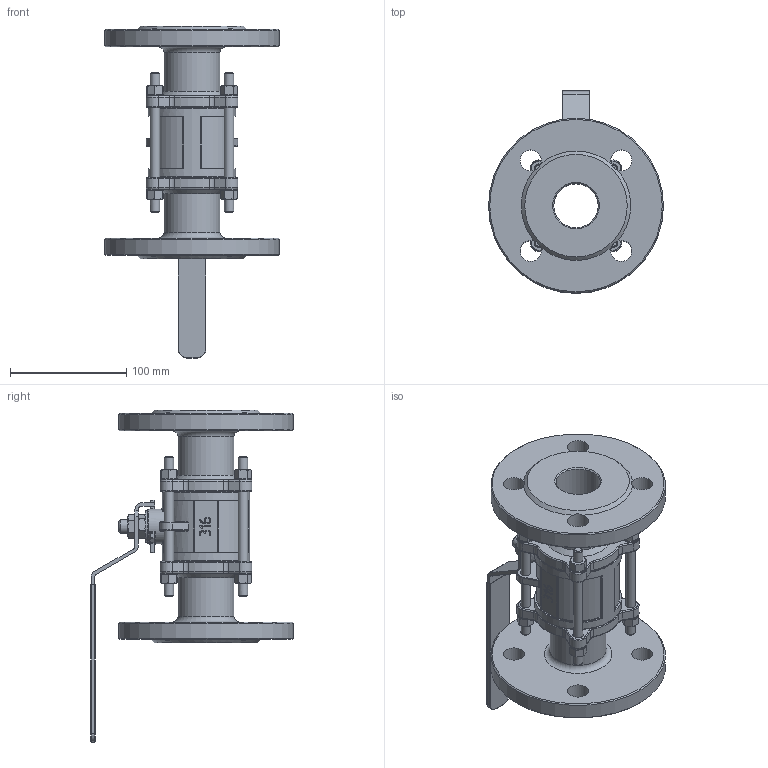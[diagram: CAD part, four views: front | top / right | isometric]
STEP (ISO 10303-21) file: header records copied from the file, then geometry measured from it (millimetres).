
FILE_DESCRIPTION(('STEP AP214'), '1');
FILE_NAME('BV3232P(3pc)-FP-F-H - Êðàí øàðîâîé DN.ru Äó40 Ðó40', '', ('UNSPECIFIED'), ('UNSPECIFIED'), 'C3D Converter', 'C3D Toolkit', '');
FILE_SCHEMA(('AUTOMOTIVE_DESIGN { 1 0 10303 214 3 1 1}'));
Length unit declared in the file: millimetre
Products named in the file (1): BV3232P(3pc)-FP-F-H
Bounding box: 150 x 174 x 285 mm (x, y, z)
Volume: 887540.3 mm3; surface area: 179481.4 mm2
Topology: 1 solids, 1 shells, 1520 faces, 3835 edges, 2405 vertices
Faces by surface type: plane 519, extrusion 442, cylinder 235, cone 139, torus 119, bspline 34, sphere 32
Full cylindrical faces by diameter (mm): 8 x12, 8.4 x8, 9 x10, 12 x1, 14 x8, 18 x8, 26.976 x1, 30 x1, 38 x1, 48 x2, 75 x1, 150 x2
Entity records: 58861 total; most frequent: CARTESIAN_POINT 20554, ORIENTED_EDGE 7510, DIRECTION 5896, EDGE_CURVE 3755, VERTEX_POINT 2405, VECTOR 2088, AXIS2_PLACEMENT_3D 1904, EDGE_LOOP 1718
